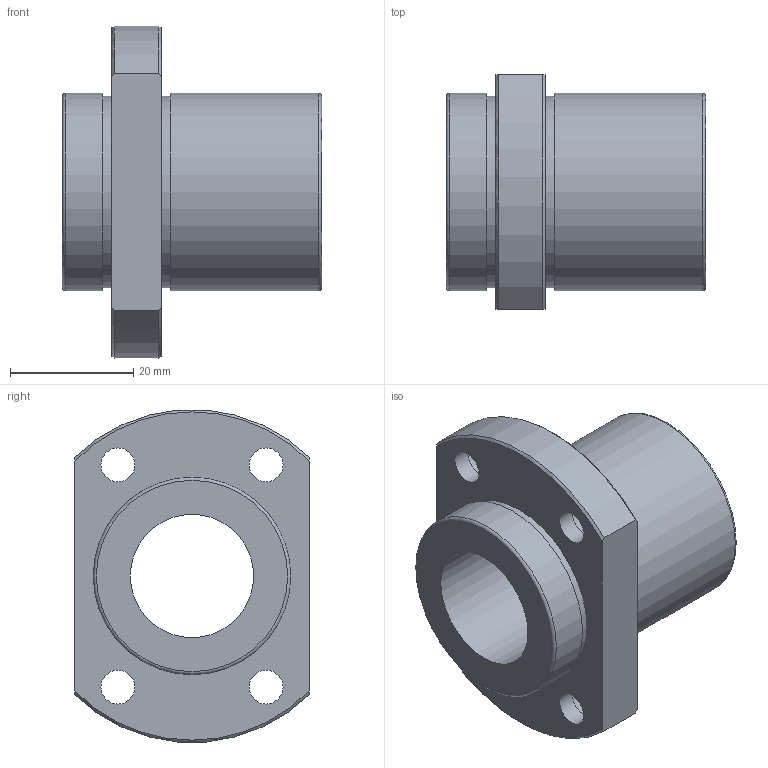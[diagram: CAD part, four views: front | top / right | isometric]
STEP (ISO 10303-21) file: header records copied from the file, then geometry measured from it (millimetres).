
FILE_DESCRIPTION(('STEP AP203'),'1');
FILE_NAME('//192.168.1.1/share/s-4 技術開発/s-4-4_CAD/s-4-4-3_見直し済み/002 修正済み/NFIO-V(済)/NFIO-V_TOP/NFIO-20VUU.step','2022-03-08T01:20:29',(' '),(' '),'Spatial InterOp 3D',' ',' ');
FILE_SCHEMA(('CONFIG_CONTROL_DESIGN'));
Length unit declared in the file: millimetre
Products named in the file (1): 1
Bounding box: 42 x 38 x 53.8 mm (x, y, z)
Volume: 27340.3 mm3; surface area: 11143.1 mm2
Topology: 1 solids, 1 shells, 33 faces, 69 edges, 46 vertices
Faces by surface type: cylinder 15, plane 12, cone 4, torus 2
Full cylindrical faces by diameter (mm): 5.5 x4, 9 x4, 20 x1, 31 x2, 32 x2
Entity records: 878 total; most frequent: CARTESIAN_POINT 154, DIRECTION 148, ORIENTED_EDGE 104, AXIS2_PLACEMENT_3D 70, EDGE_LOOP 66, EDGE_CURVE 52, FACE_OUTER_BOUND 48, VERTEX_POINT 44
